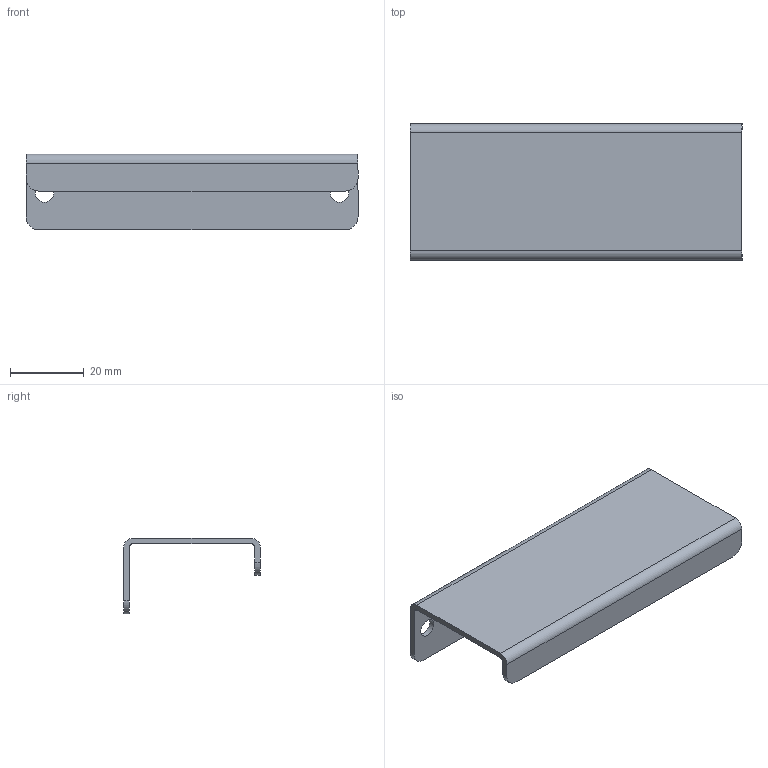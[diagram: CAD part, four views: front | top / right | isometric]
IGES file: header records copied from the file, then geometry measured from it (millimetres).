
Start section: Data from Parasolid IGES Translator 15.0.47, Copyright(c) 2006 Siemens P LM Software. All Rights Reserved.
Global section: file name: 9206741.igs; native system:  By UGS Corp.; preprocessor: XPlus GENERIC/IGES 3.0; author: Noname; organization: Noname; date: 20151204.132610; units: millimetre
Bounding box: 90 x 37 x 20.5 mm (x, y, z)
Surface area: 11737.1 mm2 (no closed solid volume)
Topology: 0 solids, 0 shells, 20 faces, 108 edges, 105 vertices
Faces by surface type: extrusion 10, revolution 10
